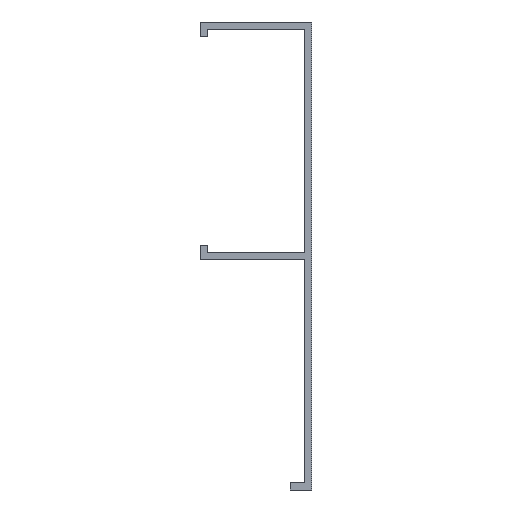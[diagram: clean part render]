
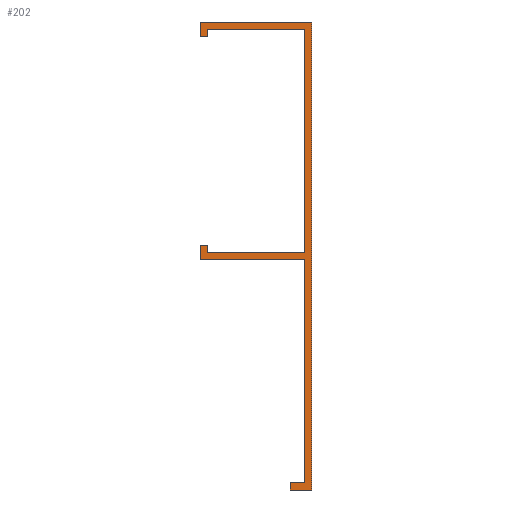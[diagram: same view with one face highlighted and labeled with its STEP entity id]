
A CAD part, left-side view. The second image highlights one B-rep face of the part: STEP entity #202.
In plain terms, the highlighted planar face has unit normal (-1, 0, 0).
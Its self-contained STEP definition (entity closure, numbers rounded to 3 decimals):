
#202=ADVANCED_FACE('',(#402),#403,.F.);
#402=FACE_OUTER_BOUND('',#593,.T.);
#403=PLANE('',#594);
#593=EDGE_LOOP('',(#1133,#1134,#1135,#1136,#1137,#1138,#1139,#1140,#1141,#1142,#1143,#1144,#1145,#1146,#1147,#1148,#1149,#1150,#1151,#1152));
#594=AXIS2_PLACEMENT_3D('',#1153,#1154,#1155);
#1133=ORIENTED_EDGE('',*,*,#1351,.T.);
#1134=ORIENTED_EDGE('',*,*,#1354,.T.);
#1135=ORIENTED_EDGE('',*,*,#1357,.T.);
#1136=ORIENTED_EDGE('',*,*,#1360,.T.);
#1137=ORIENTED_EDGE('',*,*,#1363,.T.);
#1138=ORIENTED_EDGE('',*,*,#1366,.T.);
#1139=ORIENTED_EDGE('',*,*,#1369,.T.);
#1140=ORIENTED_EDGE('',*,*,#1372,.T.);
#1141=ORIENTED_EDGE('',*,*,#1374,.T.);
#1142=ORIENTED_EDGE('',*,*,#1332,.T.);
#1143=ORIENTED_EDGE('',*,*,#1336,.T.);
#1144=ORIENTED_EDGE('',*,*,#1338,.T.);
#1145=ORIENTED_EDGE('',*,*,#1266,.T.);
#1146=ORIENTED_EDGE('',*,*,#1262,.T.);
#1147=ORIENTED_EDGE('',*,*,#1249,.T.);
#1148=ORIENTED_EDGE('',*,*,#1264,.F.);
#1149=ORIENTED_EDGE('',*,*,#1220,.T.);
#1150=ORIENTED_EDGE('',*,*,#1342,.T.);
#1151=ORIENTED_EDGE('',*,*,#1345,.T.);
#1152=ORIENTED_EDGE('',*,*,#1348,.T.);
#1153=CARTESIAN_POINT('',(0.0,-12.134,-26.482));
#1154=DIRECTION('',(1.0,0.0,0.0));
#1155=DIRECTION('',(0.0,0.0,-1.0));
#1220=EDGE_CURVE('',#1450,#1477,#1479,.T.);
#1249=EDGE_CURVE('',#1523,#1521,#1524,.T.);
#1262=EDGE_CURVE('',#1538,#1523,#1541,.T.);
#1264=EDGE_CURVE('',#1450,#1521,#1543,.T.);
#1266=EDGE_CURVE('',#1545,#1538,#1546,.T.);
#1332=EDGE_CURVE('',#1645,#1643,#1646,.T.);
#1336=EDGE_CURVE('',#1643,#1649,#1651,.T.);
#1338=EDGE_CURVE('',#1649,#1545,#1653,.T.);
#1342=EDGE_CURVE('',#1477,#1656,#1658,.T.);
#1345=EDGE_CURVE('',#1656,#1660,#1662,.T.);
#1348=EDGE_CURVE('',#1660,#1664,#1666,.T.);
#1351=EDGE_CURVE('',#1664,#1668,#1670,.T.);
#1354=EDGE_CURVE('',#1668,#1672,#1674,.T.);
#1357=EDGE_CURVE('',#1672,#1676,#1678,.T.);
#1360=EDGE_CURVE('',#1676,#1680,#1682,.T.);
#1363=EDGE_CURVE('',#1680,#1684,#1686,.T.);
#1366=EDGE_CURVE('',#1684,#1688,#1690,.T.);
#1369=EDGE_CURVE('',#1688,#1692,#1694,.T.);
#1372=EDGE_CURVE('',#1692,#1696,#1698,.T.);
#1374=EDGE_CURVE('',#1696,#1645,#1700,.T.);
#1450=VERTEX_POINT('',#1804);
#1477=VERTEX_POINT('',#1837);
#1479=LINE('',#1840,#1841);
#1521=VERTEX_POINT('',#1895);
#1523=VERTEX_POINT('',#1897);
#1524=LINE('',#1898,#1899);
#1538=VERTEX_POINT('',#1916);
#1541=LINE('',#1920,#1921);
#1543=LINE('',#1923,#1924);
#1545=VERTEX_POINT('',#1926);
#1546=LINE('',#1927,#1928);
#1643=VERTEX_POINT('',#2060);
#1645=VERTEX_POINT('',#2063);
#1646=LINE('',#2064,#2065);
#1649=VERTEX_POINT('',#2069);
#1651=LINE('',#2072,#2073);
#1653=LINE('',#2075,#2076);
#1656=VERTEX_POINT('',#2079);
#1658=LINE('',#2082,#2083);
#1660=VERTEX_POINT('',#2085);
#1662=LINE('',#2088,#2089);
#1664=VERTEX_POINT('',#2091);
#1666=LINE('',#2094,#2095);
#1668=VERTEX_POINT('',#2097);
#1670=LINE('',#2100,#2101);
#1672=VERTEX_POINT('',#2103);
#1674=LINE('',#2106,#2107);
#1676=VERTEX_POINT('',#2109);
#1678=LINE('',#2112,#2113);
#1680=VERTEX_POINT('',#2115);
#1682=LINE('',#2118,#2119);
#1684=VERTEX_POINT('',#2121);
#1686=LINE('',#2124,#2125);
#1688=VERTEX_POINT('',#2127);
#1690=LINE('',#2130,#2131);
#1692=VERTEX_POINT('',#2133);
#1694=LINE('',#2136,#2137);
#1696=VERTEX_POINT('',#2139);
#1698=LINE('',#2142,#2143);
#1700=LINE('',#2145,#2146);
#1804=CARTESIAN_POINT('',(0.,-14.495,-64.0));
#1837=CARTESIAN_POINT('',(0.0,-12.5,-64.0));
#1840=CARTESIAN_POINT('',(0.0,-14.5,-64.0));
#1841=VECTOR('',#2228,1.0);
#1895=CARTESIAN_POINT('',(0.,-14.495,-63.995));
#1897=CARTESIAN_POINT('',(0.,-14.497,-63.995));
#1898=CARTESIAN_POINT('',(0.,-14.497,-63.995));
#1899=VECTOR('',#2268,1.0);
#1916=CARTESIAN_POINT('',(0.,-14.497,-64.0));
#1920=CARTESIAN_POINT('',(0.,-14.497,-64.0));
#1921=VECTOR('',#2285,1.0);
#1923=CARTESIAN_POINT('',(0.,-14.495,-64.0));
#1924=VECTOR('',#2286,1.0);
#1926=CARTESIAN_POINT('',(0.0,-14.5,-64.0));
#1927=CARTESIAN_POINT('',(0.0,-14.5,-64.0));
#1928=VECTOR('',#2287,1.0);
#2060=CARTESIAN_POINT('',(0.0,0.0,-33.));
#2063=CARTESIAN_POINT('',(0.0,0.0,-31.));
#2064=CARTESIAN_POINT('',(0.0,0.0,-31.));
#2065=VECTOR('',#2360,1.0);
#2069=CARTESIAN_POINT('',(0.0,-14.5,-33.));
#2072=CARTESIAN_POINT('',(0.0,0.0,-33.));
#2073=VECTOR('',#2363,1.0);
#2075=CARTESIAN_POINT('',(0.0,-14.5,-32.5));
#2076=VECTOR('',#2364,1.0);
#2079=CARTESIAN_POINT('',(0.0,-12.5,-65.0));
#2082=CARTESIAN_POINT('',(0.0,-12.5,-64.0));
#2083=VECTOR('',#2366,1.0);
#2085=CARTESIAN_POINT('',(0.0,-15.5,-65.0));
#2088=CARTESIAN_POINT('',(0.0,-12.5,-65.0));
#2089=VECTOR('',#2368,1.0);
#2091=CARTESIAN_POINT('',(0.0,-15.5,0.0));
#2094=CARTESIAN_POINT('',(0.0,-15.5,-61.0));
#2095=VECTOR('',#2370,1.0);
#2097=CARTESIAN_POINT('',(0.0,0.0,0.0));
#2100=CARTESIAN_POINT('',(0.0,-15.5,0.0));
#2101=VECTOR('',#2372,1.0);
#2103=CARTESIAN_POINT('',(0.0,0.0,-2.0));
#2106=CARTESIAN_POINT('',(0.0,0.0,0.0));
#2107=VECTOR('',#2374,1.0);
#2109=CARTESIAN_POINT('',(0.0,-1.0,-2.0));
#2112=CARTESIAN_POINT('',(0.0,0.0,-2.0));
#2113=VECTOR('',#2376,1.0);
#2115=CARTESIAN_POINT('',(0.0,-1.0,-1.0));
#2118=CARTESIAN_POINT('',(0.0,-1.0,-2.0));
#2119=VECTOR('',#2378,1.0);
#2121=CARTESIAN_POINT('',(0.0,-14.5,-1.0));
#2124=CARTESIAN_POINT('',(0.0,-1.0,-1.0));
#2125=VECTOR('',#2380,1.0);
#2127=CARTESIAN_POINT('',(0.0,-14.5,-32.));
#2130=CARTESIAN_POINT('',(0.0,-14.5,-1.0));
#2131=VECTOR('',#2382,1.0);
#2133=CARTESIAN_POINT('',(0.0,-1.0,-32.));
#2136=CARTESIAN_POINT('',(0.0,-14.5,-32.));
#2137=VECTOR('',#2384,1.0);
#2139=CARTESIAN_POINT('',(0.0,-1.0,-31.));
#2142=CARTESIAN_POINT('',(0.0,-1.0,-32.));
#2143=VECTOR('',#2386,1.0);
#2145=CARTESIAN_POINT('',(0.0,-1.0,-31.));
#2146=VECTOR('',#2387,1.0);
#2228=DIRECTION('',(0.0,1.0,0.0));
#2268=DIRECTION('',(0.0,1.0,0.));
#2285=DIRECTION('',(0.0,0.,1.0));
#2286=DIRECTION('',(0.0,0.,1.0));
#2287=DIRECTION('',(0.0,1.0,0.0));
#2360=DIRECTION('',(0.0,0.0,-1.0));
#2363=DIRECTION('',(0.0,-1.0,0.0));
#2364=DIRECTION('',(0.0,0.0,-1.0));
#2366=DIRECTION('',(0.0,0.0,-1.0));
#2368=DIRECTION('',(0.0,-1.0,0.0));
#2370=DIRECTION('',(0.0,0.0,1.0));
#2372=DIRECTION('',(0.0,1.0,0.0));
#2374=DIRECTION('',(0.0,0.0,-1.0));
#2376=DIRECTION('',(0.0,-1.0,0.0));
#2378=DIRECTION('',(0.0,0.0,1.0));
#2380=DIRECTION('',(0.0,-1.0,0.0));
#2382=DIRECTION('',(0.0,0.0,-1.0));
#2384=DIRECTION('',(0.0,1.0,0.0));
#2386=DIRECTION('',(0.0,0.0,1.0));
#2387=DIRECTION('',(0.0,1.0,0.0));
